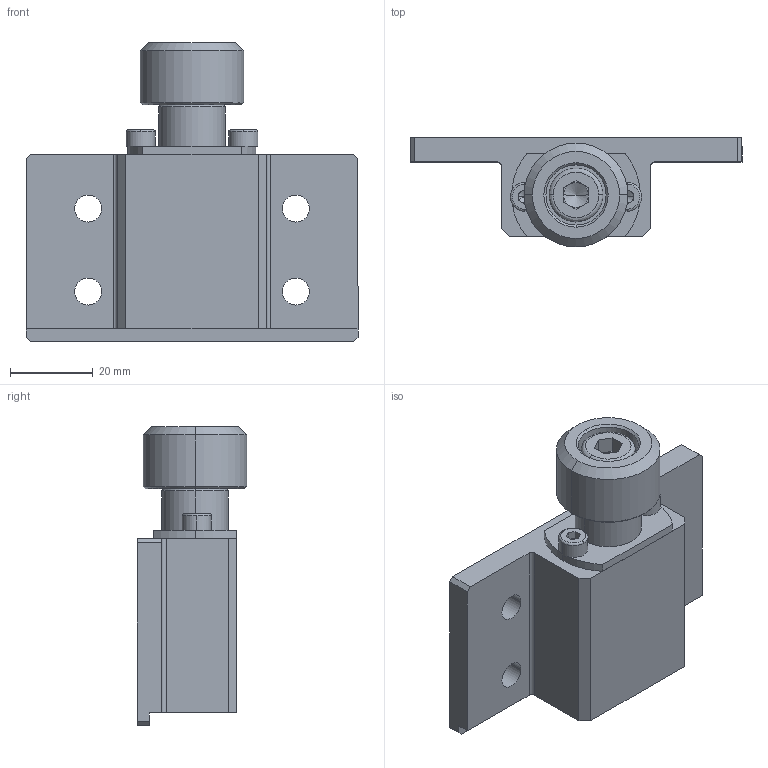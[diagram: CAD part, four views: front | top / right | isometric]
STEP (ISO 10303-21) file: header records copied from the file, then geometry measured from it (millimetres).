
FILE_DESCRIPTION (( 'STEP AP203' ), '1' );
FILE_NAME ('QCL15R-S.STEP', '2024-03-20T05:58:02', ( '微软用户' ), ( '微软中国' ), 'SwSTEP 2.0', 'SolidWorks 2018', '' );
FILE_SCHEMA (( 'CONFIG_CONTROL_DESIGN' ));
Length unit declared in the file: millimetre
Products named in the file (1): QCL15R-S
Bounding box: 80 x 26.5 x 72 mm (x, y, z)
Volume: 47108.2 mm3; surface area: 21263.6 mm2
Topology: 6 solids, 6 shells, 672 faces, 1416 edges, 759 vertices
Faces by surface type: cone 382, cylinder 205, plane 74, bspline 11
Entity records: 17871 total; most frequent: DIRECTION 3383, CARTESIAN_POINT 3233, ORIENTED_EDGE 2812, EDGE_CURVE 1406, AXIS2_PLACEMENT_3D 1335, VERTEX_POINT 759, VECTOR 713, LINE 713
